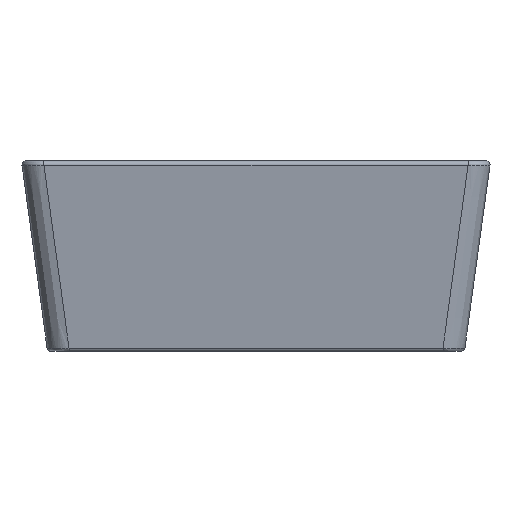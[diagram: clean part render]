
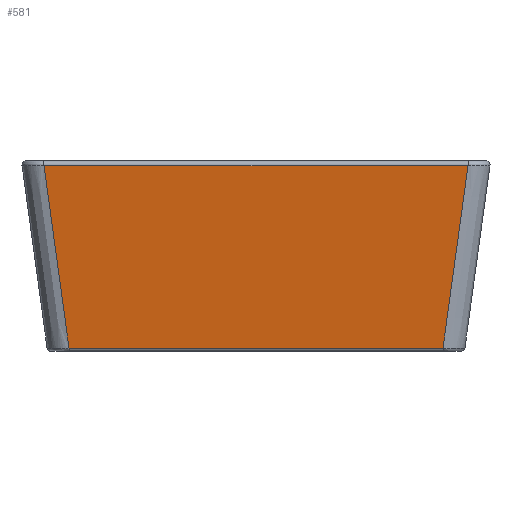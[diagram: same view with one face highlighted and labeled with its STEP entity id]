
A CAD part, front view. The second image highlights one B-rep face of the part: STEP entity #581.
In plain terms, the highlighted planar face has unit normal (0, -0.991, -0.136).
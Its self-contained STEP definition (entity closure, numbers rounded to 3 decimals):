
#197=PLANE('',#3802);
#227=LINE('',#7772,#291);
#244=LINE('',#10144,#308);
#291=VECTOR('',#3988,1.);
#308=VECTOR('',#4133,1.);
#581=ADVANCED_FACE('',(#946),#197,.T.);
#946=FACE_OUTER_BOUND('',#1183,.T.);
#1183=EDGE_LOOP('',(#1836,#1837,#1838,#1839));
#1836=ORIENTED_EDGE('',*,*,#3124,.T.);
#1837=ORIENTED_EDGE('',*,*,#3134,.T.);
#1838=ORIENTED_EDGE('',*,*,#3125,.T.);
#1839=ORIENTED_EDGE('',*,*,#2990,.T.);
#2599=VERTEX_POINT('',#7694);
#2605=VERTEX_POINT('',#7771);
#2681=VERTEX_POINT('',#9971);
#2682=VERTEX_POINT('',#9993);
#2990=EDGE_CURVE('',#2599,#2605,#227,.T.);
#3124=EDGE_CURVE('',#2605,#2681,#3566,.T.);
#3125=EDGE_CURVE('',#2682,#2599,#3567,.T.);
#3134=EDGE_CURVE('',#2681,#2682,#244,.T.);
#3566=B_SPLINE_CURVE_WITH_KNOTS('',3,(#9972,#9973,#9974,#9975),
 .UNSPECIFIED.,.F.,.F.,(4,4),(0.,1.),.UNSPECIFIED.);
#3567=B_SPLINE_CURVE_WITH_KNOTS('',3,(#9989,#9990,#9991,#9992),
 .UNSPECIFIED.,.F.,.F.,(4,4),(0.,1.),.UNSPECIFIED.);
#3802=AXIS2_PLACEMENT_3D('',#10145,#4134,#4135);
#3988=DIRECTION('',(1.,0.,0.));
#4133=DIRECTION('',(-1.,0.,0.));
#4134=DIRECTION('',(0.,-0.991,-0.136));
#4135=DIRECTION('',(1.,0.,0.));
#7694=CARTESIAN_POINT('',(37.776,-230.056,-152.408));
#7771=CARTESIAN_POINT('',(342.224,-230.056,-152.408));
#7772=CARTESIAN_POINT('',(94.5,-230.056,-152.408));
#9971=CARTESIAN_POINT('',(362.621,-250.454,-3.976));
#9972=CARTESIAN_POINT('',(342.224,-230.056,-152.408));
#9973=CARTESIAN_POINT('',(349.023,-236.855,-102.931));
#9974=CARTESIAN_POINT('',(355.822,-243.654,-53.454));
#9975=CARTESIAN_POINT('',(362.621,-250.454,-3.976));
#9989=CARTESIAN_POINT('',(17.379,-250.454,-3.976));
#9990=CARTESIAN_POINT('',(24.178,-243.654,-53.454));
#9991=CARTESIAN_POINT('',(30.977,-236.855,-102.931));
#9992=CARTESIAN_POINT('',(37.776,-230.056,-152.408));
#9993=CARTESIAN_POINT('',(17.379,-250.454,-3.976));
#10144=CARTESIAN_POINT('',(16.832,-250.454,-3.976));
#10145=CARTESIAN_POINT('',(94.5,-251.,0.));
